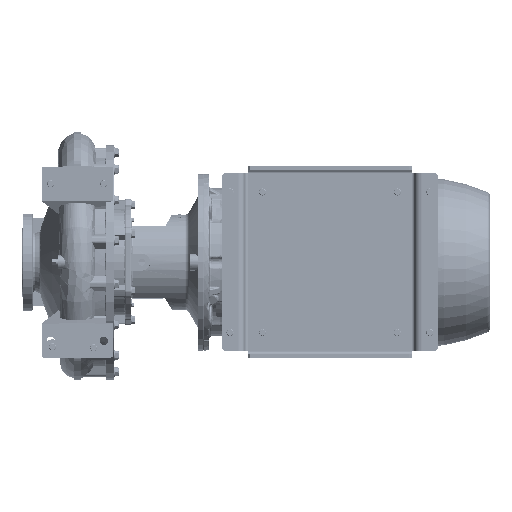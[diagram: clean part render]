
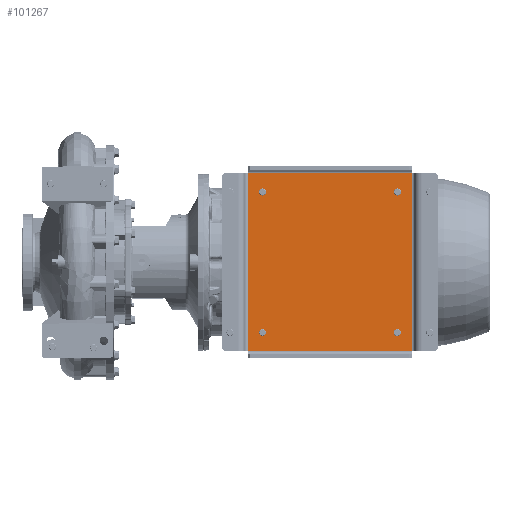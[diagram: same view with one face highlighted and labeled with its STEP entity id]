
A CAD part, front view. The second image highlights one B-rep face of the part: STEP entity #101267.
In plain terms, the highlighted planar face has unit normal (0, -1, 0).
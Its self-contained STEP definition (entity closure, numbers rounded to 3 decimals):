
#3125 = DIRECTION ( 'NONE',  ( -1., 0., 0. ) ) ;
#4978 = CARTESIAN_POINT ( 'NONE',  ( 396.5, 71., -58. ) ) ;
#7692 = CIRCLE ( 'NONE', #292187, 8. ) ;
#14099 = CARTESIAN_POINT ( 'NONE',  ( 0., 71., 0. ) ) ;
#15324 = EDGE_CURVE ( 'NONE', #51643, #107398, #143080, .T. ) ;
#15883 = CARTESIAN_POINT ( 'NONE',  ( 429., 71., -16. ) ) ;
#16688 = VERTEX_POINT ( 'NONE', #55223 ) ;
#17820 = DIRECTION ( 'NONE',  ( 0., 1., 0. ) ) ;
#18683 = VERTEX_POINT ( 'NONE', #31902 ) ;
#21551 = CARTESIAN_POINT ( 'NONE',  ( 59., 71., -16. ) ) ;
#21969 = VECTOR ( 'NONE', #67115, 1000. ) ;
#25687 = CARTESIAN_POINT ( 'NONE',  ( 396.5, 71., -58. ) ) ;
#25919 = EDGE_CURVE ( 'NONE', #18683, #50470, #38500, .T. ) ;
#26212 = LINE ( 'NONE', #251225, #60767 ) ;
#26837 = EDGE_CURVE ( 'NONE', #265236, #143701, #26212, .T. ) ;
#28666 = DIRECTION ( 'NONE',  ( 0., 1., 0. ) ) ;
#29066 = DIRECTION ( 'NONE',  ( 0., 1., 0. ) ) ;
#29149 = DIRECTION ( 'NONE',  ( 0., 1., 0. ) ) ;
#31215 = CARTESIAN_POINT ( 'NONE',  ( 396.5, 71., -50. ) ) ;
#31902 = CARTESIAN_POINT ( 'NONE',  ( 429., 71., -418. ) ) ;
#33371 = AXIS2_PLACEMENT_3D ( 'NONE', #155644, #28666, #233946 ) ;
#38500 = LINE ( 'NONE', #15883, #21969 ) ;
#38604 = EDGE_CURVE ( 'NONE', #288500, #111737, #7692, .T. ) ;
#39054 = EDGE_LOOP ( 'NONE', ( #106275, #110377, #156633, #206206 ) ) ;
#39064 = CARTESIAN_POINT ( 'NONE',  ( 91.5, 71., -376. ) ) ;
#45844 = CARTESIAN_POINT ( 'NONE',  ( 91.5, 71., -384. ) ) ;
#50470 = VERTEX_POINT ( 'NONE', #152569 ) ;
#51643 = VERTEX_POINT ( 'NONE', #221663 ) ;
#55223 = CARTESIAN_POINT ( 'NONE',  ( 91.5, 71., -368. ) ) ;
#60767 = VECTOR ( 'NONE', #230022, 1000. ) ;
#60885 = FACE_BOUND ( 'NONE', #122220, .T. ) ;
#62854 = VERTEX_POINT ( 'NONE', #94363 ) ;
#63757 = ORIENTED_EDGE ( 'NONE', *, *, #148007, .T. ) ;
#63847 = DIRECTION ( 'NONE',  ( 0., -1., 0. ) ) ;
#64086 = CARTESIAN_POINT ( 'NONE',  ( 91.5, 71., -66. ) ) ;
#67115 = DIRECTION ( 'NONE',  ( 0., 0., 1. ) ) ;
#77937 = DIRECTION ( 'NONE',  ( 0., 0., -1. ) ) ;
#78244 = EDGE_CURVE ( 'NONE', #16688, #120678, #272736, .T. ) ;
#78742 = DIRECTION ( 'NONE',  ( 1., 0., 0. ) ) ;
#85261 = ORIENTED_EDGE ( 'NONE', *, *, #202183, .T. ) ;
#86500 = FACE_OUTER_BOUND ( 'NONE', #39054, .T. ) ;
#86587 = CARTESIAN_POINT ( 'NONE',  ( 396.5, 71., -368. ) ) ;
#90871 = EDGE_CURVE ( 'NONE', #143701, #18683, #264408, .T. ) ;
#94363 = CARTESIAN_POINT ( 'NONE',  ( 91.5, 71., -50. ) ) ;
#101267 = ADVANCED_FACE ( 'NONE', ( #86500, #180051, #269212, #60885, #202692 ), #284805, .T. ) ;
#103950 = AXIS2_PLACEMENT_3D ( 'NONE', #39064, #131179, #223253 ) ;
#106275 = ORIENTED_EDGE ( 'NONE', *, *, #151157, .T. ) ;
#107398 = VERTEX_POINT ( 'NONE', #86587 ) ;
#110377 = ORIENTED_EDGE ( 'NONE', *, *, #26837, .T. ) ;
#111737 = VERTEX_POINT ( 'NONE', #237539 ) ;
#120678 = VERTEX_POINT ( 'NONE', #45844 ) ;
#122220 = EDGE_LOOP ( 'NONE', ( #142060, #63757 ) ) ;
#124042 = CIRCLE ( 'NONE', #268652, 8. ) ;
#129435 = VECTOR ( 'NONE', #3125, 1000. ) ;
#130409 = ORIENTED_EDGE ( 'NONE', *, *, #282951, .T. ) ;
#131179 = DIRECTION ( 'NONE',  ( 0., 1., 0. ) ) ;
#135372 = CIRCLE ( 'NONE', #188418, 8. ) ;
#140282 = ORIENTED_EDGE ( 'NONE', *, *, #196578, .T. ) ;
#140867 = CARTESIAN_POINT ( 'NONE',  ( 59., 71., -418. ) ) ;
#142060 = ORIENTED_EDGE ( 'NONE', *, *, #78244, .T. ) ;
#143080 = CIRCLE ( 'NONE', #292477, 8. ) ;
#143701 = VERTEX_POINT ( 'NONE', #140867 ) ;
#143769 = DIRECTION ( 'NONE',  ( 0., 0., -1. ) ) ;
#145942 = DIRECTION ( 'NONE',  ( 0., 0., -1. ) ) ;
#148007 = EDGE_CURVE ( 'NONE', #120678, #16688, #180155, .T. ) ;
#151157 = EDGE_CURVE ( 'NONE', #50470, #265236, #253743, .T. ) ;
#151302 = AXIS2_PLACEMENT_3D ( 'NONE', #232947, #29149, #190671 ) ;
#152569 = CARTESIAN_POINT ( 'NONE',  ( 429., 71., -16. ) ) ;
#155644 = CARTESIAN_POINT ( 'NONE',  ( 91.5, 71., -58. ) ) ;
#156633 = ORIENTED_EDGE ( 'NONE', *, *, #90871, .T. ) ;
#161433 = ORIENTED_EDGE ( 'NONE', *, *, #258561, .T. ) ;
#163533 = CIRCLE ( 'NONE', #33371, 8. ) ;
#178699 = ORIENTED_EDGE ( 'NONE', *, *, #15324, .T. ) ;
#180051 = FACE_BOUND ( 'NONE', #243052, .T. ) ;
#180155 = CIRCLE ( 'NONE', #151302, 8. ) ;
#185707 = DIRECTION ( 'NONE',  ( 0., 0., -1. ) ) ;
#187644 = DIRECTION ( 'NONE',  ( 0., 0., -1. ) ) ;
#188418 = AXIS2_PLACEMENT_3D ( 'NONE', #245778, #17820, #248758 ) ;
#188778 = AXIS2_PLACEMENT_3D ( 'NONE', #257029, #29066, #143769 ) ;
#190671 = DIRECTION ( 'NONE',  ( 0., 0., -1. ) ) ;
#192753 = CARTESIAN_POINT ( 'NONE',  ( 396.5, 71., -376. ) ) ;
#195707 = DIRECTION ( 'NONE',  ( 0., 1., 0. ) ) ;
#196578 = EDGE_CURVE ( 'NONE', #111737, #288500, #124042, .T. ) ;
#202183 = EDGE_CURVE ( 'NONE', #107398, #51643, #135372, .T. ) ;
#202692 = FACE_BOUND ( 'NONE', #234802, .T. ) ;
#203178 = CIRCLE ( 'NONE', #188778, 8. ) ;
#206206 = ORIENTED_EDGE ( 'NONE', *, *, #25919, .T. ) ;
#214885 = AXIS2_PLACEMENT_3D ( 'NONE', #14099, #63847, #77937 ) ;
#221663 = CARTESIAN_POINT ( 'NONE',  ( 396.5, 71., -384. ) ) ;
#223253 = DIRECTION ( 'NONE',  ( 0., 0., -1. ) ) ;
#229495 = DIRECTION ( 'NONE',  ( 0., 1., 0. ) ) ;
#230022 = DIRECTION ( 'NONE',  ( 0., 0., -1. ) ) ;
#232947 = CARTESIAN_POINT ( 'NONE',  ( 91.5, 71., -376. ) ) ;
#233946 = DIRECTION ( 'NONE',  ( 0., 0., -1. ) ) ;
#234387 = DIRECTION ( 'NONE',  ( 0., 1., 0. ) ) ;
#234802 = EDGE_LOOP ( 'NONE', ( #250103, #140282 ) ) ;
#237539 = CARTESIAN_POINT ( 'NONE',  ( 396.5, 71., -66. ) ) ;
#240233 = CARTESIAN_POINT ( 'NONE',  ( 429., 71., -418. ) ) ;
#241998 = VECTOR ( 'NONE', #78742, 1000. ) ;
#243052 = EDGE_LOOP ( 'NONE', ( #130409, #161433 ) ) ;
#245778 = CARTESIAN_POINT ( 'NONE',  ( 396.5, 71., -376. ) ) ;
#248758 = DIRECTION ( 'NONE',  ( 0., 0., -1. ) ) ;
#250103 = ORIENTED_EDGE ( 'NONE', *, *, #38604, .T. ) ;
#250778 = CARTESIAN_POINT ( 'NONE',  ( 59., 71., -16. ) ) ;
#251225 = CARTESIAN_POINT ( 'NONE',  ( 59., 71., -418. ) ) ;
#253743 = LINE ( 'NONE', #250778, #129435 ) ;
#257029 = CARTESIAN_POINT ( 'NONE',  ( 91.5, 71., -58. ) ) ;
#258561 = EDGE_CURVE ( 'NONE', #297644, #62854, #163533, .T. ) ;
#264408 = LINE ( 'NONE', #240233, #241998 ) ;
#265236 = VERTEX_POINT ( 'NONE', #21551 ) ;
#268652 = AXIS2_PLACEMENT_3D ( 'NONE', #25687, #229495, #185707 ) ;
#269212 = FACE_BOUND ( 'NONE', #284753, .T. ) ;
#272736 = CIRCLE ( 'NONE', #103950, 8. ) ;
#282951 = EDGE_CURVE ( 'NONE', #62854, #297644, #203178, .T. ) ;
#284753 = EDGE_LOOP ( 'NONE', ( #85261, #178699 ) ) ;
#284805 = PLANE ( 'NONE',  #214885 ) ;
#288500 = VERTEX_POINT ( 'NONE', #31215 ) ;
#292187 = AXIS2_PLACEMENT_3D ( 'NONE', #4978, #234387, #187644 ) ;
#292477 = AXIS2_PLACEMENT_3D ( 'NONE', #192753, #195707, #145942 ) ;
#297644 = VERTEX_POINT ( 'NONE', #64086 ) ;
